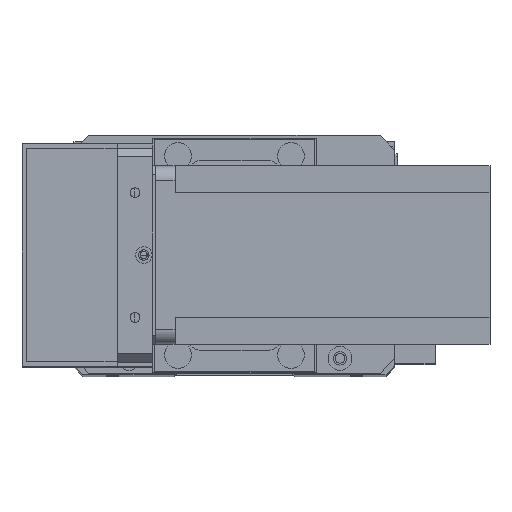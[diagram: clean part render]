
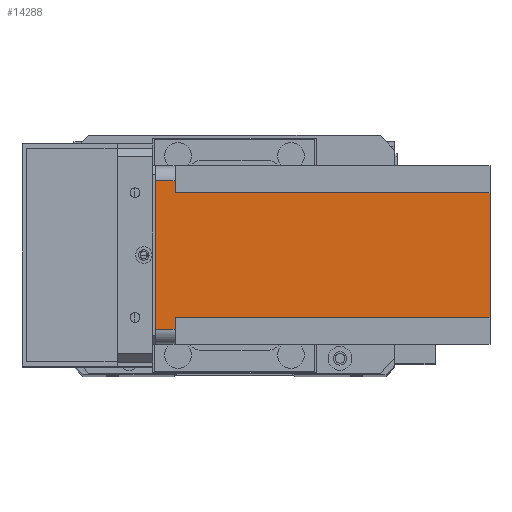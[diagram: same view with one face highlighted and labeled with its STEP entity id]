
A CAD part, top view. The second image highlights one B-rep face of the part: STEP entity #14288.
In plain terms, the highlighted planar face has unit normal (0, 0, 1) as drawn and (1, 0, 0) by its records, which use the part's own axes.
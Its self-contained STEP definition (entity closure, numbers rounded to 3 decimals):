
#425 = CARTESIAN_POINT ( 'NONE',  ( 60., 0., -112.5 ) ) ;
#1784 = VECTOR ( 'NONE', #21507, 1000. ) ;
#2312 = LINE ( 'NONE', #7223, #9058 ) ;
#2479 = CARTESIAN_POINT ( 'NONE',  ( 60., 51., -112.5 ) ) ;
#2500 = ORIENTED_EDGE ( 'NONE', *, *, #13600, .T. ) ;
#2728 = DIRECTION ( 'NONE',  ( 0., 1., 0. ) ) ;
#3482 = DIRECTION ( 'NONE',  ( 0., 0., 1. ) ) ;
#4446 = LINE ( 'NONE', #11164, #9069 ) ;
#4661 = DIRECTION ( 'NONE',  ( 0., -1., 0. ) ) ;
#4722 = CARTESIAN_POINT ( 'NONE',  ( 60., 60., -6.5 ) ) ;
#5297 = VECTOR ( 'NONE', #16022, 1000. ) ;
#6345 = VERTEX_POINT ( 'NONE', #10262 ) ;
#6584 = CARTESIAN_POINT ( 'NONE',  ( 60., 55., 0. ) ) ;
#6624 = CARTESIAN_POINT ( 'NONE',  ( 60., 5., 0. ) ) ;
#6683 = EDGE_CURVE ( 'NONE', #14684, #6345, #14309, .T. ) ;
#7223 = CARTESIAN_POINT ( 'NONE',  ( 60., 0., -6.5 ) ) ;
#9058 = VECTOR ( 'NONE', #20789, 1000. ) ;
#9069 = VECTOR ( 'NONE', #27031, 1000. ) ;
#9327 = EDGE_LOOP ( 'NONE', ( #14710, #22829, #26301, #15428, #22940, #25361, #2500, #17196 ) ) ;
#10262 = CARTESIAN_POINT ( 'NONE',  ( 60., 51., -6.5 ) ) ;
#10732 = DIRECTION ( 'NONE',  ( 1., 0., 0. ) ) ;
#11164 = CARTESIAN_POINT ( 'NONE',  ( 60., 55., -112.5 ) ) ;
#11521 = EDGE_CURVE ( 'NONE', #14431, #25618, #20541, .T. ) ;
#11882 = EDGE_CURVE ( 'NONE', #6345, #14559, #16623, .T. ) ;
#12905 = PLANE ( 'NONE',  #25641 ) ;
#12986 = DIRECTION ( 'NONE',  ( 0., 0., -1. ) ) ;
#13600 = EDGE_CURVE ( 'NONE', #24279, #14559, #19760, .T. ) ;
#13616 = VECTOR ( 'NONE', #4661, 1000. ) ;
#14288 = ADVANCED_FACE ( 'NONE', ( #17937 ), #12905, .T. ) ;
#14309 = LINE ( 'NONE', #4722, #13616 ) ;
#14431 = VERTEX_POINT ( 'NONE', #6624 ) ;
#14559 = VERTEX_POINT ( 'NONE', #18797 ) ;
#14684 = VERTEX_POINT ( 'NONE', #26032 ) ;
#14710 = ORIENTED_EDGE ( 'NONE', *, *, #6683, .F. ) ;
#14969 = EDGE_CURVE ( 'NONE', #14684, #25618, #4446, .T. ) ;
#15140 = CARTESIAN_POINT ( 'NONE',  ( 60., 5., -112.5 ) ) ;
#15428 = ORIENTED_EDGE ( 'NONE', *, *, #26801, .T. ) ;
#16022 = DIRECTION ( 'NONE',  ( 0., 0., -1. ) ) ;
#16623 = LINE ( 'NONE', #2479, #5297 ) ;
#17012 = CARTESIAN_POINT ( 'NONE',  ( 60., 9., -112.5 ) ) ;
#17196 = ORIENTED_EDGE ( 'NONE', *, *, #11882, .F. ) ;
#17937 = FACE_OUTER_BOUND ( 'NONE', #9327, .T. ) ;
#18797 = CARTESIAN_POINT ( 'NONE',  ( 60., 51., -112.5 ) ) ;
#19518 = CARTESIAN_POINT ( 'NONE',  ( 60., 9., -112.5 ) ) ;
#19760 = LINE ( 'NONE', #425, #25083 ) ;
#20541 = LINE ( 'NONE', #23802, #1784 ) ;
#20693 = VERTEX_POINT ( 'NONE', #25936 ) ;
#20789 = DIRECTION ( 'NONE',  ( 0., -1., 0. ) ) ;
#21507 = DIRECTION ( 'NONE',  ( 0., 1., 0. ) ) ;
#21514 = EDGE_CURVE ( 'NONE', #24279, #26660, #23025, .T. ) ;
#22829 = ORIENTED_EDGE ( 'NONE', *, *, #14969, .T. ) ;
#22940 = ORIENTED_EDGE ( 'NONE', *, *, #26437, .F. ) ;
#23025 = LINE ( 'NONE', #17012, #28338 ) ;
#23620 = VECTOR ( 'NONE', #12986, 1000. ) ;
#23802 = CARTESIAN_POINT ( 'NONE',  ( 60., 0., 0. ) ) ;
#24279 = VERTEX_POINT ( 'NONE', #19518 ) ;
#24284 = CARTESIAN_POINT ( 'NONE',  ( 60., 0., -112.5 ) ) ;
#24343 = LINE ( 'NONE', #15140, #23620 ) ;
#25083 = VECTOR ( 'NONE', #2728, 1000. ) ;
#25361 = ORIENTED_EDGE ( 'NONE', *, *, #21514, .F. ) ;
#25618 = VERTEX_POINT ( 'NONE', #6584 ) ;
#25641 = AXIS2_PLACEMENT_3D ( 'NONE', #24284, #10732, #26572 ) ;
#25936 = CARTESIAN_POINT ( 'NONE',  ( 60., 5., -6.5 ) ) ;
#26032 = CARTESIAN_POINT ( 'NONE',  ( 60., 55., -6.5 ) ) ;
#26301 = ORIENTED_EDGE ( 'NONE', *, *, #11521, .F. ) ;
#26437 = EDGE_CURVE ( 'NONE', #26660, #20693, #2312, .T. ) ;
#26572 = DIRECTION ( 'NONE',  ( 0., 1., 0. ) ) ;
#26660 = VERTEX_POINT ( 'NONE', #28333 ) ;
#26801 = EDGE_CURVE ( 'NONE', #14431, #20693, #24343, .T. ) ;
#27031 = DIRECTION ( 'NONE',  ( 0., 0., 1. ) ) ;
#28333 = CARTESIAN_POINT ( 'NONE',  ( 60., 9., -6.5 ) ) ;
#28338 = VECTOR ( 'NONE', #3482, 1000. ) ;
